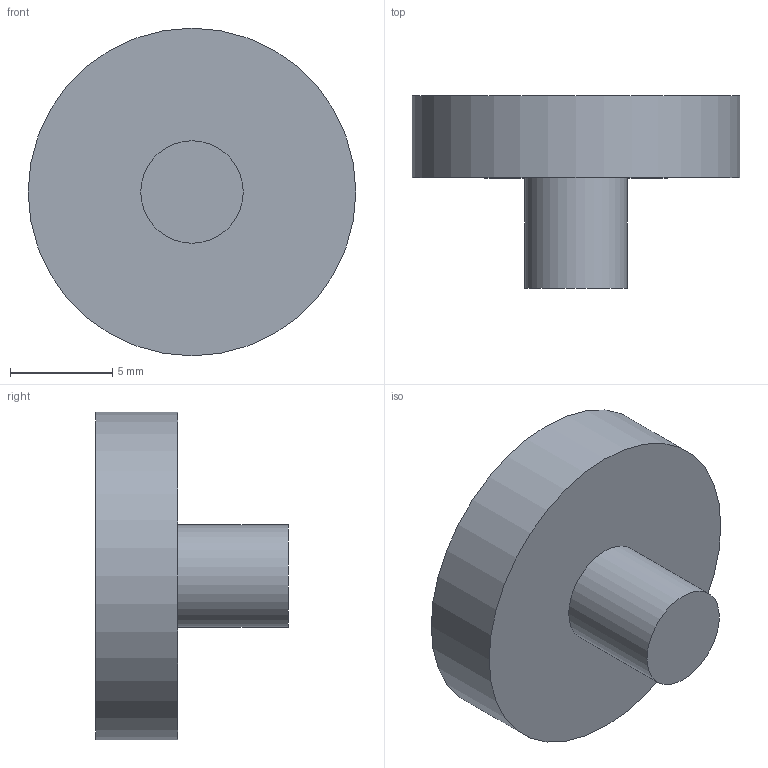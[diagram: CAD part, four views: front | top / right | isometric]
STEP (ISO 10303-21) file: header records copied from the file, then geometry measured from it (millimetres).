
FILE_DESCRIPTION(('Open CASCADE Model'),'2;1');
FILE_NAME('Open CASCADE Shape Model','2026-11-05T02:23:56',('Author'),( 'Open CASCADE'),'Open CASCADE STEP processor 7.8','Open CASCADE 7.8' ,'Unknown');
FILE_SCHEMA(('AUTOMOTIVE_DESIGN { 1 0 10303 214 1 1 1 1 }'));
Length unit declared in the file: millimetre
Products named in the file (1): Open CASCADE STEP translator 7.8 33
Bounding box: 16 x 9.4 x 16 mm (x, y, z)
Volume: 910.3 mm3; surface area: 688 mm2
Topology: 1 solids, 1 shells, 5 faces, 6 edges, 4 vertices
Faces by surface type: plane 3, cylinder 2
Full cylindrical faces by diameter (mm): 5 x1, 16 x1
Entity records: 204 total; most frequent: CARTESIAN_POINT 52, DIRECTION 30, ORIENTED_EDGE 12, PCURVE 12, DEFINITIONAL_REPRESENTATION 12, AXIS2_PLACEMENT_3D 10, LINE 10, VECTOR 10
